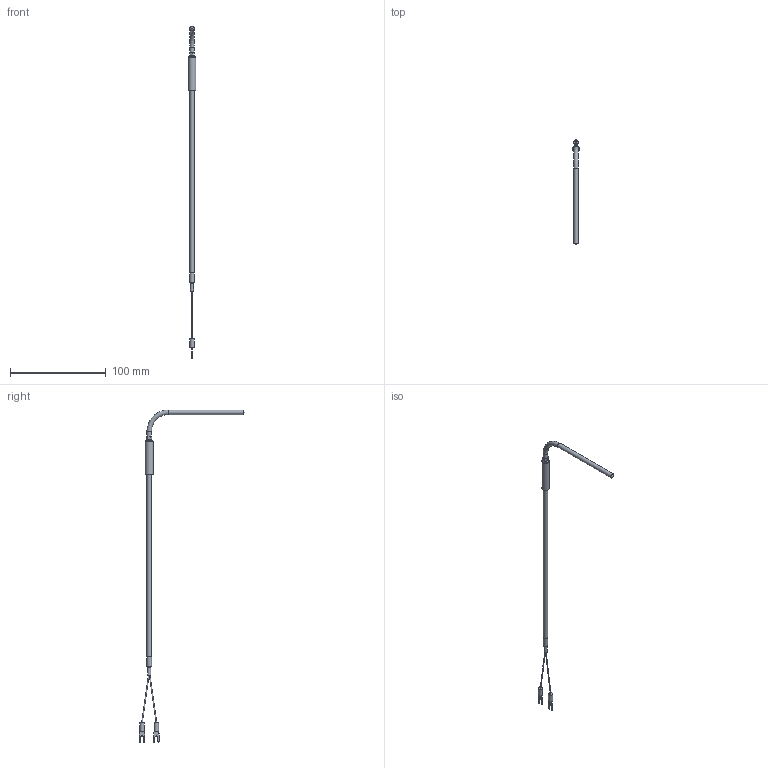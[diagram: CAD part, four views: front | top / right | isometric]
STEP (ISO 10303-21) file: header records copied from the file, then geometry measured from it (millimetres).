
FILE_DESCRIPTION (( 'STEP AP203' ), '1' );
FILE_NAME ('YIT111S-6(0).STEP', '2024-05-31T01:52:59', ( '' ), ( '' ), 'SwSTEP 2.0', 'SolidWorks 2021', '' );
FILE_SCHEMA (( 'CONFIG_CONTROL_DESIGN' ));
Length unit declared in the file: millimetre
Products named in the file (1): YIT111S-6(0)
Bounding box: 8 x 110.43 x 347.4 mm (x, y, z)
Volume: 8095.4 mm3; surface area: 6692.8 mm2
Topology: 1 solids, 1 shells, 70 faces, 168 edges, 109 vertices
Faces by surface type: plane 35, cylinder 22, bspline 8, cone 3, torus 2
Full cylindrical faces by diameter (mm): 3.16 x1, 4.5 x2, 4.8 x3, 5 x1, 8 x1
Entity records: 2185 total; most frequent: CARTESIAN_POINT 571, DIRECTION 312, ORIENTED_EDGE 296, EDGE_CURVE 148, AXIS2_PLACEMENT_3D 113, VERTEX_POINT 104, EDGE_LOOP 94, VECTOR 86
